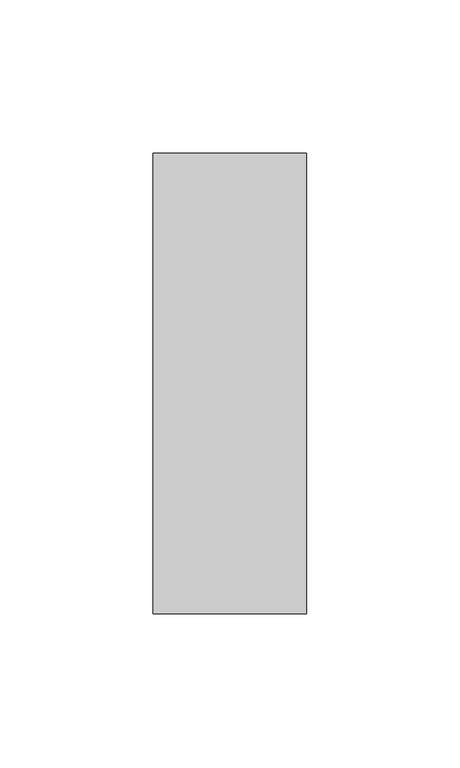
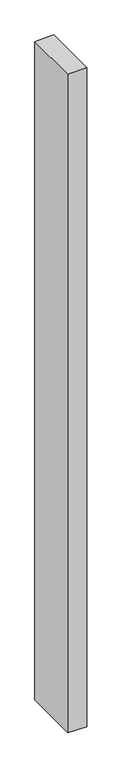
"""IFC4 building model written with IfcOpenShell, lengths in millimetres: member geometry, Прямоугольный импост : 50 x 150 мм."""

from ifc_helpers import new_model, si_unit, origin, place, context, project, spatial, faceted_brep, source, transform, mapped, element, save


def member_7fb0e374(model_context):
    return source(origin(), model_context, "Body", "Brep", [
        faceted_brep([(-25.0, 75.0, -0.163388), (25.0, 75.0, 0.7895985), (25.0, 75.0, -1839.3648122), (-25.0, 75.0, -1838.4436217), (-25.0, -75.0, -0.7895985), (-25.0, -75.0, -1840.0977368), (25.0, -75.0, 0.163388), (25.0, -75.0, -1841.0189273)], [[[0, 1, 2, 3]], [[4, 0, 3, 5]], [[6, 4, 5, 7]], [[1, 6, 7, 2]], [[1, 0, 4, 6]], [[2, 7, 5, 3]]]),
    ])


if __name__ == "__main__":
    model = new_model("IFC4")
    model_context = context("Model", 3, world=origin())
    ifc_project = project(units=[si_unit("LENGTHUNIT", "METRE", prefix="MILLI")], contexts=[model_context])
    site = spatial("IfcSite", under=ifc_project)
    building = spatial("IfcBuilding", under=site)
    placement = place(None, origin())
    member_shape = member_7fb0e374(model_context)
    element("IfcMember", 1, ObjectType="Прямоугольный импост : 50 x 150 мм", at=placement, inside=building, context=model_context, shape_type="MappedRepresentation", body=[
        mapped(member_shape, transform((0.0, 0.0, 0.0), x_axis=(1.0, 0.0, 0.0), y_axis=(0.0, 1.0, 0.0), z_axis=(0.0, 0.0, 1.0))),
    ])
    save(model, "model.ifc")
